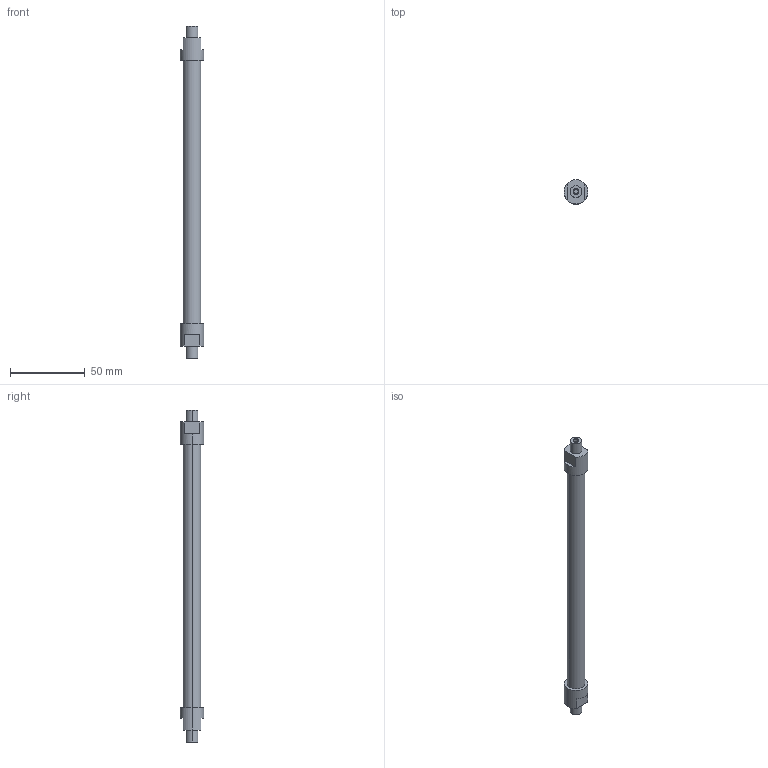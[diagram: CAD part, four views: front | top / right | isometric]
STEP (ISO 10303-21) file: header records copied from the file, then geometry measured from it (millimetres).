
FILE_DESCRIPTION(('STEP AP214'),'1');
FILE_NAME('ETT-R025G215.stp','2015-02-03T08:41:41',(' '),(' '),'Spatial InterOp 3D',' ',' ');
FILE_SCHEMA(('automotive_design'));
Length unit declared in the file: metre
Products named in the file (2): 1; 2
Bounding box: 16 x 16 x 222 mm (x, y, z)
Volume: 26066.6 mm3; surface area: 9475.5 mm2
Topology: 1 solids, 4 shells, 33 faces, 78 edges, 56 vertices
Faces by surface type: plane 17, cylinder 16
Entity records: 1292 total; most frequent: DIRECTION 192, CARTESIAN_POINT 169, ORIENTED_EDGE 144, AXIS2_PLACEMENT_3D 79, EDGE_CURVE 78, VERTEX_POINT 56, CIRCLE 44, EDGE_LOOP 40
